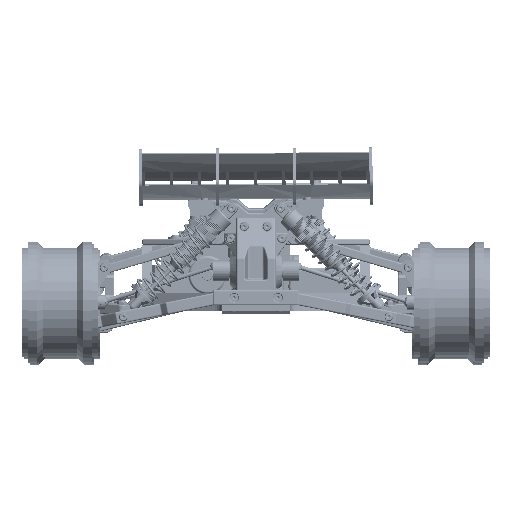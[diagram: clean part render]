
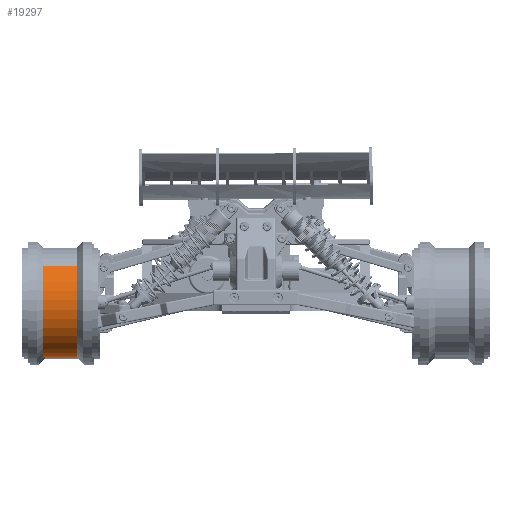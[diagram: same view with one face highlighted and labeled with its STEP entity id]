
A CAD part, left-side view. The second image highlights one B-rep face of the part: STEP entity #19297.
In plain terms, the highlighted cylindrical face has radius 36 mm (diameter 72 mm), a partial arc.
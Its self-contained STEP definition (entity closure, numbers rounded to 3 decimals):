
#19297=ADVANCED_FACE('',(#36656),#36657,.T.);
#36656=FACE_OUTER_BOUND('',#74130,.T.);
#36657=CYLINDRICAL_SURFACE('',#74131,36.0);
#74130=EDGE_LOOP('',(#120287,#120288,#120289,#120290));
#74131=AXIS2_PLACEMENT_3D('',#120291,#120292,#120293);
#120287=ORIENTED_EDGE('',*,*,#128822,.F.);
#120288=ORIENTED_EDGE('',*,*,#144747,.F.);
#120289=ORIENTED_EDGE('',*,*,#128824,.F.);
#120290=ORIENTED_EDGE('',*,*,#126791,.F.);
#120291=CARTESIAN_POINT('',(0.0,0.0,0.0));
#120292=DIRECTION('',(-0.0,1.0,0.0));
#120293=DIRECTION('',(0.0,0.0,-1.0));
#126791=EDGE_CURVE('',#145971,#145968,#145973,.T.);
#128822=EDGE_CURVE('',#149665,#145971,#149666,.T.);
#128824=EDGE_CURVE('',#145968,#149668,#149669,.T.);
#144747=EDGE_CURVE('',#149668,#149665,#172706,.T.);
#145968=VERTEX_POINT('',#174018);
#145971=VERTEX_POINT('',#174022);
#145973=CIRCLE('',#174025,36.0);
#149665=VERTEX_POINT('',#190153);
#149666=LINE('',#190154,#190155);
#149668=VERTEX_POINT('',#190157);
#149669=LINE('',#190158,#190159);
#172706=CIRCLE('',#250705,36.0);
#174018=CARTESIAN_POINT('',(0.0,3.0,36.0));
#174022=CARTESIAN_POINT('',(0.,3.0,-36.0));
#174025=AXIS2_PLACEMENT_3D('',#254062,#254063,#254064);
#190153=CARTESIAN_POINT('',(0.0,-19.0,-36.0));
#190154=CARTESIAN_POINT('',(0.,0.0,-36.0));
#190155=VECTOR('',#256792,1.0);
#190157=CARTESIAN_POINT('',(0.,-19.0,36.0));
#190158=CARTESIAN_POINT('',(0.,0.0,36.0));
#190159=VECTOR('',#256796,1.0);
#250705=AXIS2_PLACEMENT_3D('',#276151,#276152,#276153);
#254062=CARTESIAN_POINT('',(0.0,3.0,0.0));
#254063=DIRECTION('',(0.0,1.0,0.0));
#254064=DIRECTION('',(0.0,0.0,1.0));
#256792=DIRECTION('',(-0.0,1.0,0.0));
#256796=DIRECTION('',(-0.0,-1.0,0.0));
#276151=CARTESIAN_POINT('',(0.0,-19.0,0.0));
#276152=DIRECTION('',(0.0,-1.0,0.0));
#276153=DIRECTION('',(0.0,0.0,-1.0));
